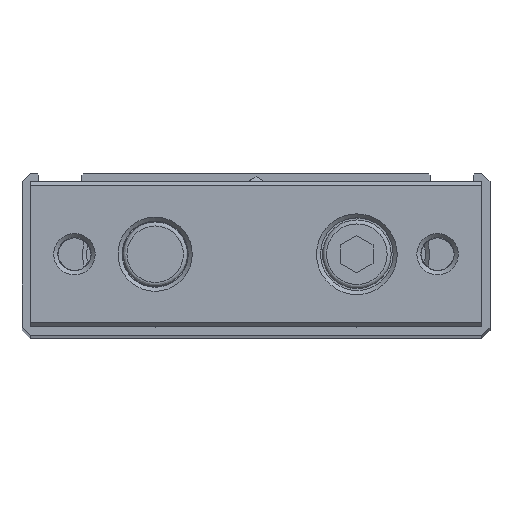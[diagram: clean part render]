
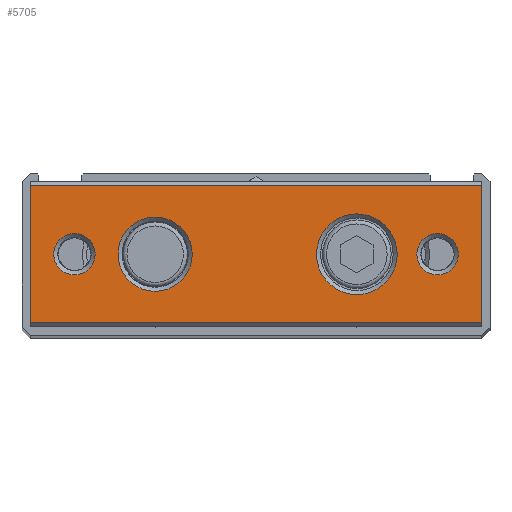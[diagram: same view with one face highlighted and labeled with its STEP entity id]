
A CAD part, top view. The second image highlights one B-rep face of the part: STEP entity #5705.
In plain terms, the highlighted planar face has unit normal (0, 0, 1).
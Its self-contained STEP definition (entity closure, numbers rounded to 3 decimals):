
#3656=CARTESIAN_POINT('',(-28.,-8.5,239.0));
#3657=VERTEX_POINT('',#3656);
#3664=CARTESIAN_POINT('',(-28.,8.5,239.0));
#3665=VERTEX_POINT('',#3664);
#3666=CARTESIAN_POINT('',(-28.,8.5,239.0));
#3667=DIRECTION('',(0.0,-1.0,0.0));
#3668=VECTOR('',#3667,17.0);
#3669=LINE('',#3666,#3668);
#3670=EDGE_CURVE('',#3665,#3657,#3669,.T.);
#3856=CARTESIAN_POINT('',(28.,-8.5,239.0));
#3857=VERTEX_POINT('',#3856);
#3864=CARTESIAN_POINT('',(28.,-8.5,239.0));
#3865=DIRECTION('',(-1.0,0.0,0.0));
#3866=VECTOR('',#3865,56.);
#3867=LINE('',#3864,#3866);
#3868=EDGE_CURVE('',#3857,#3657,#3867,.T.);
#3935=CARTESIAN_POINT('',(28.,8.5,239.0));
#3936=VERTEX_POINT('',#3935);
#3943=CARTESIAN_POINT('',(28.,-8.5,239.0));
#3944=DIRECTION('',(0.0,1.0,0.0));
#3945=VECTOR('',#3944,17.0);
#3946=LINE('',#3943,#3945);
#3947=EDGE_CURVE('',#3857,#3936,#3946,.T.);
#5641=CARTESIAN_POINT('',(17.5,0.,239.0));
#5642=VERTEX_POINT('',#5641);
#5643=CARTESIAN_POINT('',(12.5,0.,239.0));
#5644=DIRECTION('',(0.0,0.0,1.0));
#5645=DIRECTION('',(-1.0,0.0,0.0));
#5646=AXIS2_PLACEMENT_3D('',#5643,#5644,#5645);
#5647=CIRCLE('',#5646,5.0);
#5648=EDGE_CURVE('',#5642,#5642,#5647,.T.);
#5653=CARTESIAN_POINT('',(0.0,-9.,239.0));
#5654=DIRECTION('',(0.0,0.0,1.0));
#5655=DIRECTION('',(1.0,0.0,0.0));
#5656=AXIS2_PLACEMENT_3D('',#5653,#5654,#5655);
#5657=PLANE('',#5656);
#5658=ORIENTED_EDGE('',*,*,#3868,.F.);
#5659=ORIENTED_EDGE('',*,*,#3947,.T.);
#5660=CARTESIAN_POINT('',(-28.,8.5,239.0));
#5661=DIRECTION('',(1.0,0.0,0.0));
#5662=VECTOR('',#5661,56.);
#5663=LINE('',#5660,#5662);
#5664=EDGE_CURVE('',#3665,#3936,#5663,.T.);
#5665=ORIENTED_EDGE('',*,*,#5664,.F.);
#5666=ORIENTED_EDGE('',*,*,#3670,.T.);
#5667=EDGE_LOOP('',(#5658,#5659,#5665,#5666));
#5668=FACE_OUTER_BOUND('',#5667,.T.);
#5669=CARTESIAN_POINT('',(-7.9,0.,239.0));
#5670=VERTEX_POINT('',#5669);
#5671=CARTESIAN_POINT('',(-12.5,0.,239.0));
#5672=DIRECTION('',(0.0,0.0,1.0));
#5673=DIRECTION('',(-1.0,0.0,0.0));
#5674=AXIS2_PLACEMENT_3D('',#5671,#5672,#5673);
#5675=CIRCLE('',#5674,4.6);
#5676=EDGE_CURVE('',#5670,#5670,#5675,.T.);
#5677=ORIENTED_EDGE('',*,*,#5676,.F.);
#5678=EDGE_LOOP('',(#5677));
#5679=FACE_BOUND('',#5678,.T.);
#5680=CARTESIAN_POINT('',(-19.933,0.,239.0));
#5681=VERTEX_POINT('',#5680);
#5682=CARTESIAN_POINT('',(-22.5,0.,239.0));
#5683=DIRECTION('',(0.0,0.0,1.0));
#5684=DIRECTION('',(-1.0,0.0,0.0));
#5685=AXIS2_PLACEMENT_3D('',#5682,#5683,#5684);
#5686=CIRCLE('',#5685,2.567);
#5687=EDGE_CURVE('',#5681,#5681,#5686,.T.);
#5688=ORIENTED_EDGE('',*,*,#5687,.F.);
#5689=EDGE_LOOP('',(#5688));
#5690=FACE_BOUND('',#5689,.T.);
#5691=CARTESIAN_POINT('',(25.067,0.,239.0));
#5692=VERTEX_POINT('',#5691);
#5693=CARTESIAN_POINT('',(22.5,0.,239.0));
#5694=DIRECTION('',(0.0,0.0,1.0));
#5695=DIRECTION('',(-1.0,0.0,0.0));
#5696=AXIS2_PLACEMENT_3D('',#5693,#5694,#5695);
#5697=CIRCLE('',#5696,2.567);
#5698=EDGE_CURVE('',#5692,#5692,#5697,.T.);
#5699=ORIENTED_EDGE('',*,*,#5698,.F.);
#5700=EDGE_LOOP('',(#5699));
#5701=FACE_BOUND('',#5700,.T.);
#5702=ORIENTED_EDGE('',*,*,#5648,.F.);
#5703=EDGE_LOOP('',(#5702));
#5704=FACE_BOUND('',#5703,.T.);
#5705=ADVANCED_FACE('',(#5668,#5679,#5690,#5701,#5704),#5657,.T.);
